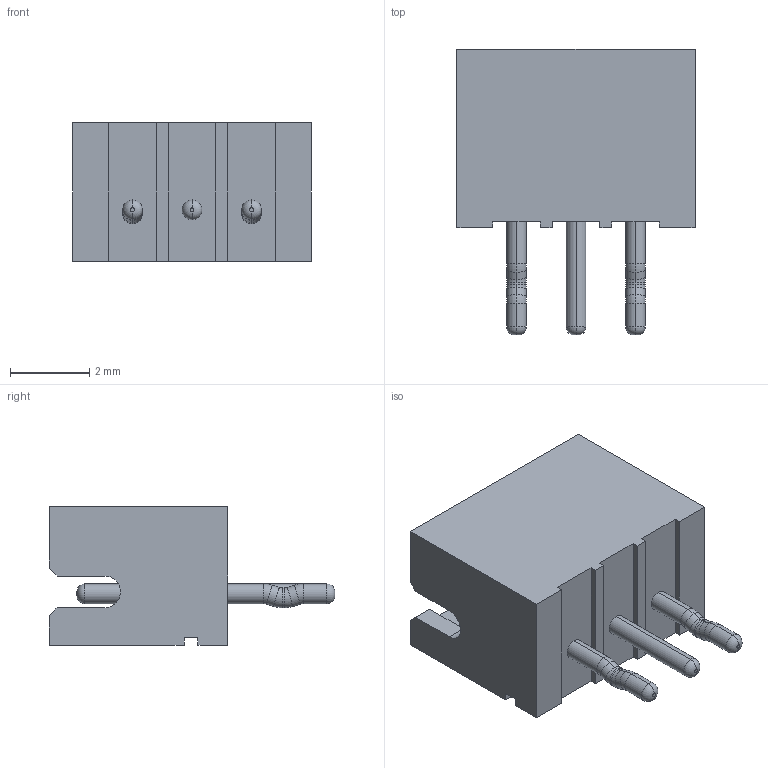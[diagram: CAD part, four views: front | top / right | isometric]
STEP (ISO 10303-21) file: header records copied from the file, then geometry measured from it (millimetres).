
FILE_DESCRIPTION (( 'STEP AP214' ), '1' );
FILE_NAME ('B3B-ZR.STEP', '2020-11-06T02:16:08', ( '' ), ( '' ), 'SwSTEP 2.0', 'SolidWorks 2017', '' );
FILE_SCHEMA (( 'AUTOMOTIVE_DESIGN' ));
Length unit declared in the file: millimetre
Products named in the file (1): B3B-ZR
Bounding box: 6 x 7.2 x 3.5 mm (x, y, z)
Volume: 49.6 mm3; surface area: 215.4 mm2
Topology: 4 solids, 4 shells, 108 faces, 262 edges, 160 vertices
Faces by surface type: plane 50, cylinder 30, torus 28
Entity records: 3215 total; most frequent: DIRECTION 580, CARTESIAN_POINT 531, ORIENTED_EDGE 524, EDGE_CURVE 262, AXIS2_PLACEMENT_3D 209, LINE 162, VECTOR 162, VERTEX_POINT 160
